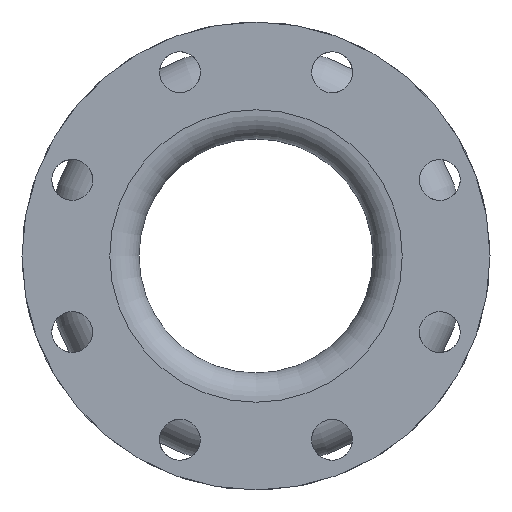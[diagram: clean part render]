
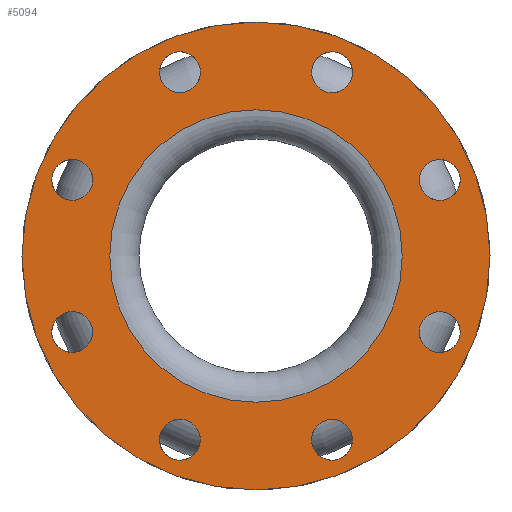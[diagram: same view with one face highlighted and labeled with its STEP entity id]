
A CAD part, left-side view. The second image highlights one B-rep face of the part: STEP entity #5094.
In plain terms, the highlighted planar face has unit normal (-1, 0, 0).
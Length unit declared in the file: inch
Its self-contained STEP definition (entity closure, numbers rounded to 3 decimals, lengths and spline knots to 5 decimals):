
#283=FACE_BOUND('',#925,.T.);
#284=FACE_BOUND('',#926,.T.);
#285=FACE_BOUND('',#927,.T.);
#286=FACE_BOUND('',#928,.T.);
#287=FACE_BOUND('',#929,.T.);
#288=FACE_BOUND('',#930,.T.);
#289=FACE_BOUND('',#931,.T.);
#290=FACE_BOUND('',#932,.T.);
#291=FACE_BOUND('',#933,.T.);
#565=FACE_OUTER_BOUND('',#924,.T.);
#924=EDGE_LOOP('',(#3886));
#925=EDGE_LOOP('',(#3887));
#926=EDGE_LOOP('',(#3888));
#927=EDGE_LOOP('',(#3889));
#928=EDGE_LOOP('',(#3890));
#929=EDGE_LOOP('',(#3891));
#930=EDGE_LOOP('',(#3892));
#931=EDGE_LOOP('',(#3893));
#932=EDGE_LOOP('',(#3894));
#933=EDGE_LOOP('',(#3895));
#1795=CIRCLE('',#5547,0.4375);
#1797=CIRCLE('',#5550,0.4375);
#1799=CIRCLE('',#5553,0.4375);
#1801=CIRCLE('',#5556,0.4375);
#1803=CIRCLE('',#5559,0.4375);
#1805=CIRCLE('',#5562,0.4375);
#1807=CIRCLE('',#5565,0.4375);
#1809=CIRCLE('',#5568,0.4375);
#1841=CIRCLE('',#5623,3.125);
#1842=CIRCLE('',#5625,5.);
#2257=VERTEX_POINT('',#8415);
#2259=VERTEX_POINT('',#8420);
#2261=VERTEX_POINT('',#8425);
#2263=VERTEX_POINT('',#8430);
#2265=VERTEX_POINT('',#8435);
#2267=VERTEX_POINT('',#8440);
#2269=VERTEX_POINT('',#8445);
#2271=VERTEX_POINT('',#8450);
#2303=VERTEX_POINT('',#8537);
#2304=VERTEX_POINT('',#8540);
#2839=EDGE_CURVE('',#2257,#2257,#1795,.T.);
#2841=EDGE_CURVE('',#2259,#2259,#1797,.T.);
#2843=EDGE_CURVE('',#2261,#2261,#1799,.T.);
#2845=EDGE_CURVE('',#2263,#2263,#1801,.T.);
#2847=EDGE_CURVE('',#2265,#2265,#1803,.T.);
#2849=EDGE_CURVE('',#2267,#2267,#1805,.T.);
#2851=EDGE_CURVE('',#2269,#2269,#1807,.T.);
#2853=EDGE_CURVE('',#2271,#2271,#1809,.T.);
#2885=EDGE_CURVE('',#2303,#2303,#1841,.T.);
#2886=EDGE_CURVE('',#2304,#2304,#1842,.T.);
#3886=ORIENTED_EDGE('',*,*,#2886,.F.);
#3887=ORIENTED_EDGE('',*,*,#2885,.T.);
#3888=ORIENTED_EDGE('',*,*,#2839,.T.);
#3889=ORIENTED_EDGE('',*,*,#2841,.T.);
#3890=ORIENTED_EDGE('',*,*,#2843,.T.);
#3891=ORIENTED_EDGE('',*,*,#2845,.T.);
#3892=ORIENTED_EDGE('',*,*,#2847,.T.);
#3893=ORIENTED_EDGE('',*,*,#2849,.T.);
#3894=ORIENTED_EDGE('',*,*,#2851,.T.);
#3895=ORIENTED_EDGE('',*,*,#2853,.T.);
#4612=PLANE('',#5624);
#5094=ADVANCED_FACE('',(#565,#283,#284,#285,#286,#287,#288,#289,#290,#291),
#4612,.T.);
#5547=AXIS2_PLACEMENT_3D('',#8416,#6701,#6702);
#5550=AXIS2_PLACEMENT_3D('',#8421,#6707,#6708);
#5553=AXIS2_PLACEMENT_3D('',#8426,#6713,#6714);
#5556=AXIS2_PLACEMENT_3D('',#8431,#6719,#6720);
#5559=AXIS2_PLACEMENT_3D('',#8436,#6725,#6726);
#5562=AXIS2_PLACEMENT_3D('',#8441,#6731,#6732);
#5565=AXIS2_PLACEMENT_3D('',#8446,#6737,#6738);
#5568=AXIS2_PLACEMENT_3D('',#8451,#6743,#6744);
#5623=AXIS2_PLACEMENT_3D('',#8538,#6853,#6854);
#5624=AXIS2_PLACEMENT_3D('',#8539,#6855,#6856);
#5625=AXIS2_PLACEMENT_3D('',#8541,#6857,#6858);
#6701=DIRECTION('center_axis',(1.,0.,0.));
#6702=DIRECTION('ref_axis',(0.,-0.707,0.707));
#6707=DIRECTION('center_axis',(1.,0.,0.));
#6708=DIRECTION('ref_axis',(0.,0.,
1.));
#6713=DIRECTION('center_axis',(1.,0.,0.));
#6714=DIRECTION('ref_axis',(0.,0.707,0.707));
#6719=DIRECTION('center_axis',(1.,0.,0.));
#6720=DIRECTION('ref_axis',(0.,1.,0.));
#6725=DIRECTION('center_axis',(1.,0.,0.));
#6726=DIRECTION('ref_axis',(0.,0.707,-0.707));
#6731=DIRECTION('center_axis',(1.,0.,0.));
#6732=DIRECTION('ref_axis',(0.,0.,
-1.));
#6737=DIRECTION('center_axis',(1.,0.,0.));
#6738=DIRECTION('ref_axis',(0.,-0.707,-0.707));
#6743=DIRECTION('center_axis',(1.,0.,0.));
#6744=DIRECTION('ref_axis',(0.,-1.,0.));
#6853=DIRECTION('center_axis',(1.,0.,0.));
#6854=DIRECTION('ref_axis',(0.,0.,-1.));
#6855=DIRECTION('center_axis',(-1.,0.,0.));
#6856=DIRECTION('ref_axis',(0.,0.,1.));
#6857=DIRECTION('center_axis',(1.,0.,0.));
#6858=DIRECTION('ref_axis',(0.,0.,-1.));
#8415=CARTESIAN_POINT('',(-7.,1.93576,-4.23585));
#8416=CARTESIAN_POINT('Origin',(-7.,1.6264,-3.92649));
#8420=CARTESIAN_POINT('',(-7.,-1.6264,-4.36399));
#8421=CARTESIAN_POINT('Origin',(-7.,-1.6264,-3.92649));
#8425=CARTESIAN_POINT('',(-7.,-4.23585,-1.93576));
#8426=CARTESIAN_POINT('Origin',(-7.,-3.92649,-1.6264));
#8430=CARTESIAN_POINT('',(-7.,-4.36399,1.6264));
#8431=CARTESIAN_POINT('Origin',(-7.,-3.92649,1.6264));
#8435=CARTESIAN_POINT('',(-7.,-1.93576,4.23585));
#8436=CARTESIAN_POINT('Origin',(-7.,-1.6264,3.92649));
#8440=CARTESIAN_POINT('',(-7.,1.6264,4.36399));
#8441=CARTESIAN_POINT('Origin',(-7.,1.6264,3.92649));
#8445=CARTESIAN_POINT('',(-7.,4.23585,1.93576));
#8446=CARTESIAN_POINT('Origin',(-7.,3.92649,1.6264));
#8450=CARTESIAN_POINT('',(-7.,4.36399,-1.6264));
#8451=CARTESIAN_POINT('Origin',(-7.,3.92649,-1.6264));
#8537=CARTESIAN_POINT('',(-7.,3.125,0.));
#8538=CARTESIAN_POINT('Origin',(-7.,0.,0.));
#8539=CARTESIAN_POINT('Origin',(-7.,5.,0.));
#8540=CARTESIAN_POINT('',(-7.,5.,0.));
#8541=CARTESIAN_POINT('Origin',(-7.,0.,0.));
